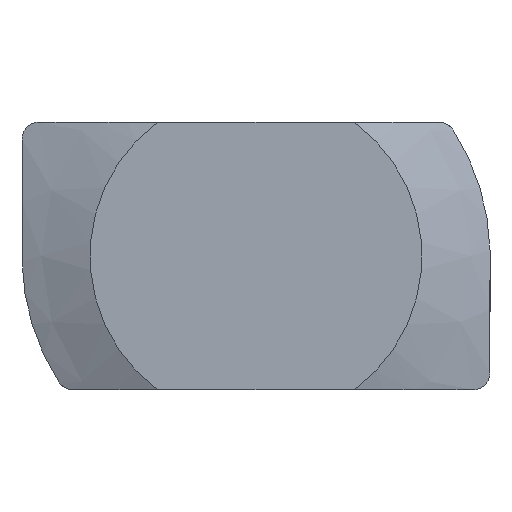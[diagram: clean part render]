
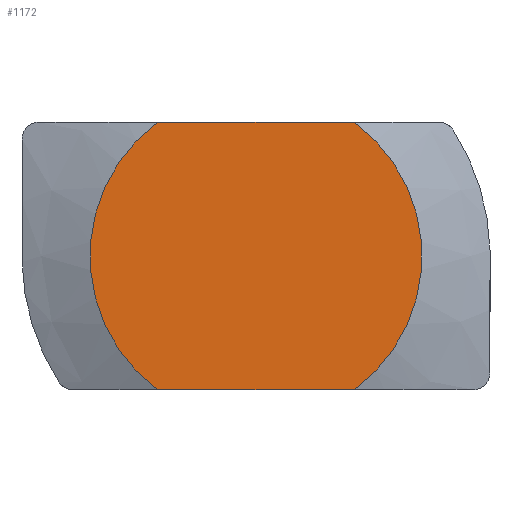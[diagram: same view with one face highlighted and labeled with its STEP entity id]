
A CAD part, front view. The second image highlights one B-rep face of the part: STEP entity #1172.
In plain terms, the highlighted planar face has unit normal (0, -1, 0).
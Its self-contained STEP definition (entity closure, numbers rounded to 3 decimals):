
#97 = CARTESIAN_POINT ( 'NONE',  ( -7., 0., 4. ) ) ;
#293 = PLANE ( 'NONE',  #3286 ) ;
#468 = EDGE_LOOP ( 'NONE', ( #905, #1357, #1877, #2643 ) ) ;
#496 = LINE ( 'NONE', #97, #1458 ) ;
#706 = EDGE_CURVE ( 'NONE', #710, #3398, #1371, .T. ) ;
#710 = VERTEX_POINT ( 'NONE', #1917 ) ;
#769 = CIRCLE ( 'NONE', #3385, 4.966 ) ;
#867 = EDGE_CURVE ( 'NONE', #3061, #710, #496, .T. ) ;
#905 = ORIENTED_EDGE ( 'NONE', *, *, #706, .F. ) ;
#939 = AXIS2_PLACEMENT_3D ( 'NONE', #1177, #3120, #2716 ) ;
#1172 = ADVANCED_FACE ( 'NONE', ( #2988 ), #293, .F. ) ;
#1177 = CARTESIAN_POINT ( 'NONE',  ( 0., 0., 0. ) ) ;
#1248 = CARTESIAN_POINT ( 'NONE',  ( -2.943, 0., 4. ) ) ;
#1357 = ORIENTED_EDGE ( 'NONE', *, *, #867, .F. ) ;
#1371 = CIRCLE ( 'NONE', #939, 4.966 ) ;
#1458 = VECTOR ( 'NONE', #3667, 1000. ) ;
#1477 = EDGE_CURVE ( 'NONE', #2501, #3061, #769, .T. ) ;
#1802 = VECTOR ( 'NONE', #2996, 1000. ) ;
#1877 = ORIENTED_EDGE ( 'NONE', *, *, #1477, .F. ) ;
#1917 = CARTESIAN_POINT ( 'NONE',  ( 2.943, 0., 4. ) ) ;
#2412 = DIRECTION ( 'NONE',  ( 0., 0., 1. ) ) ;
#2501 = VERTEX_POINT ( 'NONE', #3215 ) ;
#2643 = ORIENTED_EDGE ( 'NONE', *, *, #2694, .F. ) ;
#2652 = DIRECTION ( 'NONE',  ( 0., 0., 1. ) ) ;
#2694 = EDGE_CURVE ( 'NONE', #3398, #2501, #3805, .T. ) ;
#2716 = DIRECTION ( 'NONE',  ( 0., 0., 1. ) ) ;
#2807 = DIRECTION ( 'NONE',  ( 0., 1., 0. ) ) ;
#2988 = FACE_OUTER_BOUND ( 'NONE', #468, .T. ) ;
#2996 = DIRECTION ( 'NONE',  ( -1., 0., 0. ) ) ;
#3049 = DIRECTION ( 'NONE',  ( 0., 1., 0. ) ) ;
#3061 = VERTEX_POINT ( 'NONE', #1248 ) ;
#3120 = DIRECTION ( 'NONE',  ( 0., 1., 0. ) ) ;
#3215 = CARTESIAN_POINT ( 'NONE',  ( -2.943, 0., -4. ) ) ;
#3218 = CARTESIAN_POINT ( 'NONE',  ( 0., 0., 0. ) ) ;
#3286 = AXIS2_PLACEMENT_3D ( 'NONE', #3462, #3049, #2652 ) ;
#3385 = AXIS2_PLACEMENT_3D ( 'NONE', #3218, #2807, #2412 ) ;
#3398 = VERTEX_POINT ( 'NONE', #3674 ) ;
#3410 = CARTESIAN_POINT ( 'NONE',  ( -7., 0., -4. ) ) ;
#3462 = CARTESIAN_POINT ( 'NONE',  ( 0., 0., 0. ) ) ;
#3667 = DIRECTION ( 'NONE',  ( 1., 0., 0. ) ) ;
#3674 = CARTESIAN_POINT ( 'NONE',  ( 2.943, 0., -4. ) ) ;
#3805 = LINE ( 'NONE', #3410, #1802 ) ;
